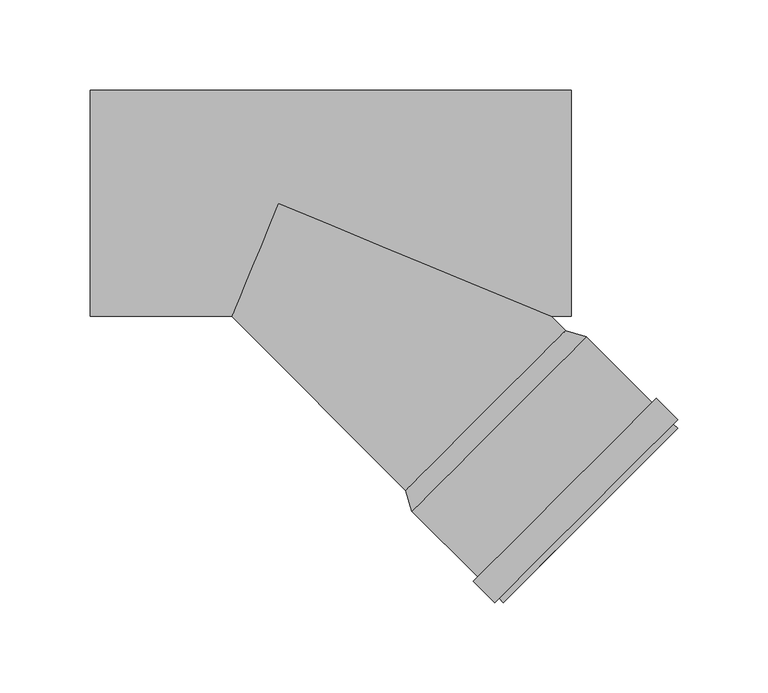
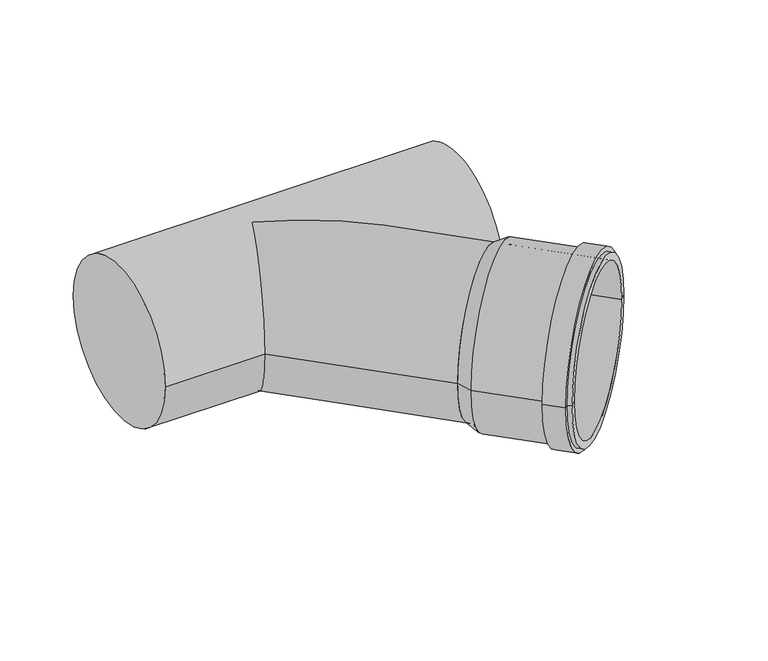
"""IFC4 building model written with IfcOpenShell, lengths in millimetres: pipe fitting geometry, pf_HTEA : pf_HTEA."""

from ifc_helpers import new_model, si_unit, frame, origin, place, context, project, spatial, polyline, circle_curve, ellipse_curve, source, transform, mapped, element, save
from ifc_brep_helpers import plane_surface, cylinder_surface, revolved_surface, advanced_brep


def pipe_fitting_72bf3672(model_context):
    return source(origin(), model_context, "Body", "AdvancedBrep", [
        advanced_brep(
        [(70.3571247, -158.7454724, 0.0), (158.7454724, -70.3571247, 0.0), (170.1298916, -73.821948, 0.0), (73.821948, -170.1298916, 0.0), (114.5512986, -114.5512986, 0.0), (124.3800828, -220.6880264, 0.0), (220.6880264, -124.3800828, 0.0), (216.7282284, -128.3398808, 0.0), (128.3398808, -216.7282284, 0.0), (121.9759198, -218.2838634, 0.0), (218.2838634, -121.9759198, 0.0), (119.5717567, -220.6880264, 0.0), (220.6880264, -119.5717567, 0.0), (107.8337841, -208.9500538, 0.0), (208.9500538, -107.8337841, 0.0), (110.2379472, -206.5458908, 0.0), (206.5458908, -110.2379472, 0.0), (77.7817459, -166.1700936, 0.0), (166.1700936, -77.7817459, 0.0), (121.9759198, -121.9759198, 0.0)],
        [
            (0, 1, circle_curve(frame((114.5512986, -114.5512986, 0.0), z_axis=(0.7071067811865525, -0.7071067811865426, 0.0), x_axis=(0.7071067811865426, 0.7071067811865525, 0.0)), 62.5)),
            (1, 2),
            (2, 3, circle_curve(frame((121.9759198, -121.9759198, 0.0), z_axis=(-0.7071067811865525, 0.7071067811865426, 0.0), x_axis=(0.7071067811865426, 0.7071067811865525, 0.0)), 68.1)),
            (3, 0),
            (1, 0, circle_curve(frame((114.5512986, -114.5512986, 0.0), z_axis=(0.7071067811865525, -0.7071067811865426, 0.0), x_axis=(0.7071067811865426, 0.7071067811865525, 0.0)), 62.5)),
            (3, 2, circle_curve(frame((121.9759198, -121.9759198, 0.0), z_axis=(-0.7071067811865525, 0.7071067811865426, 0.0), x_axis=(0.7071067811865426, 0.7071067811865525, 0.0)), 68.1)),
            (4, 1),
            (0, 4),
            (5, 6, circle_curve(frame((172.5340546, -172.5340546, 0.0), z_axis=(0.7071067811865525, -0.7071067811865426, 0.0), x_axis=(0.7071067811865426, 0.7071067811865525, 0.0)), 68.1)),
            (6, 7),
            (7, 8, circle_curve(frame((172.5340546, -172.5340546, 0.0), z_axis=(-0.7071067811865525, 0.7071067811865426, 0.0), x_axis=(0.7071067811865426, 0.7071067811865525, 0.0)), 62.5)),
            (8, 5),
            (6, 5, circle_curve(frame((172.5340546, -172.5340546, 0.0), z_axis=(0.7071067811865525, -0.7071067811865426, 0.0), x_axis=(0.7071067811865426, 0.7071067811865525, 0.0)), 68.1)),
            (8, 7, circle_curve(frame((172.5340546, -172.5340546, 0.0), z_axis=(-0.7071067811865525, 0.7071067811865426, 0.0), x_axis=(0.7071067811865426, 0.7071067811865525, 0.0)), 62.5)),
            (9, 10, circle_curve(frame((170.1298916, -170.1298916, 0.0), z_axis=(0.7071067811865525, -0.7071067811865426, 0.0), x_axis=(0.7071067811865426, 0.7071067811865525, 0.0)), 68.1)),
            (10, 6),
            (5, 9),
            (10, 9, circle_curve(frame((170.1298916, -170.1298916, 0.0), z_axis=(0.7071067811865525, -0.7071067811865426, 0.0), x_axis=(0.7071067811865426, 0.7071067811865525, 0.0)), 68.1)),
            (11, 12, circle_curve(frame((170.1298916, -170.1298916, 0.0), z_axis=(0.7071067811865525, -0.7071067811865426, 0.0), x_axis=(0.7071067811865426, 0.7071067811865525, 0.0)), 71.5)),
            (12, 10),
            (9, 11),
            (12, 11, circle_curve(frame((170.1298916, -170.1298916, 0.0), z_axis=(0.7071067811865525, -0.7071067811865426, 0.0), x_axis=(0.7071067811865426, 0.7071067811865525, 0.0)), 71.5)),
            (13, 14, circle_curve(frame((158.391919, -158.391919, 0.0), z_axis=(0.7071067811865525, -0.7071067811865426, 0.0), x_axis=(0.7071067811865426, 0.7071067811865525, 0.0)), 71.5)),
            (14, 12),
            (11, 13),
            (14, 13, circle_curve(frame((158.391919, -158.391919, 0.0), z_axis=(0.7071067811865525, -0.7071067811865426, 0.0), x_axis=(0.7071067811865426, 0.7071067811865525, 0.0)), 71.5)),
            (15, 16, circle_curve(frame((158.391919, -158.391919, 0.0), z_axis=(0.7071067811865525, -0.7071067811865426, 0.0), x_axis=(0.7071067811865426, 0.7071067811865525, 0.0)), 68.1)),
            (16, 14),
            (13, 15),
            (16, 15, circle_curve(frame((158.391919, -158.391919, 0.0), z_axis=(0.7071067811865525, -0.7071067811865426, 0.0), x_axis=(0.7071067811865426, 0.7071067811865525, 0.0)), 68.1)),
            (2, 16),
            (15, 3),
            (17, 18, circle_curve(frame((121.9759198, -121.9759198, 0.0), z_axis=(0.7071067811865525, -0.7071067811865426, 0.0), x_axis=(0.7071067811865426, 0.7071067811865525, 0.0)), 62.5)),
            (18, 19),
            (19, 17),
            (18, 17, circle_curve(frame((121.9759198, -121.9759198, 0.0), z_axis=(0.7071067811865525, -0.7071067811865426, 0.0), x_axis=(0.7071067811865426, 0.7071067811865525, 0.0)), 62.5)),
            (7, 18),
            (17, 8),
        ],
        [
            revolved_surface(polyline([(170.1298916, -73.821948, 0.0), (158.7454724, -70.3571247, 0.0)]), (114.5512986, -114.5512986, 0.0), (-0.7071067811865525, 0.7071067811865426, 0.0)),
            plane_surface(frame((114.5512986, -114.5512986, 0.0), z_axis=(-0.7071067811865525, 0.7071067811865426, 0.0), x_axis=(0.7071067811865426, 0.7071067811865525, 0.0))),
            plane_surface(frame((172.5340546, -172.5340546, 0.0), z_axis=(0.7071067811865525, -0.7071067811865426, 0.0), x_axis=(0.7071067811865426, 0.7071067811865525, 0.0))),
            cylinder_surface(frame((114.5512986, -114.5512986, 0.0), z_axis=(-0.7071067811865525, 0.7071067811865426, 0.0), x_axis=(0.7071067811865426, 0.7071067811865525, 0.0)), 68.1),
            plane_surface(frame((170.1298916, -170.1298916, 0.0), z_axis=(0.7071067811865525, -0.7071067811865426, 0.0), x_axis=(0.7071067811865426, 0.7071067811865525, 0.0))),
            cylinder_surface(frame((114.5512986, -114.5512986, 0.0), z_axis=(-0.7071067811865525, 0.7071067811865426, 0.0), x_axis=(0.7071067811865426, 0.7071067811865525, 0.0)), 71.5),
            plane_surface(frame((158.391919, -158.391919, 0.0), z_axis=(-0.7071067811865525, 0.7071067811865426, 0.0), x_axis=(0.7071067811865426, 0.7071067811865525, 0.0))),
            plane_surface(frame((121.9759198, -121.9759198, 0.0), z_axis=(0.7071067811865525, -0.7071067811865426, 0.0), x_axis=(0.7071067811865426, 0.7071067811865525, 0.0))),
            revolved_surface(polyline([(166.17009357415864, -77.78174592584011, 0.0), (216.72822842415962, -128.33988077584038, 0.0)]), (114.5512986, -114.5512986, 0.0), (-0.7071067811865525, 0.7071067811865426, 0.0)),
        ],
        [
            (0, [[1, 2, 3, 4]]),
            (0, [[5, -4, 6, -2]]),
            (1, [[7, -1, 8]]),
            (1, [[-8, -5, -7]]),
            (2, [[9, 10, 11, 12]]),
            (2, [[13, -12, 14, -10]]),
            (3, [[15, 16, -9, 17]]),
            (3, [[18, -17, -13, -16]]),
            (4, [[19, 20, -15, 21]]),
            (4, [[22, -21, -18, -20]]),
            (5, [[23, 24, -19, 25]]),
            (5, [[26, -25, -22, -24]]),
            (6, [[27, 28, -23, 29]]),
            (6, [[30, -29, -26, -28]]),
            (3, [[-3, 31, -27, 32]]),
            (3, [[-6, -32, -30, -31]]),
            (7, [[33, 34, 35]]),
            (7, [[36, -35, -34]]),
            (8, [[-11, 37, -33, 38]]),
            (8, [[-14, -38, -36, -37]]),
        ],
    ),
        advanced_brep(
        [(70.3571247, -158.7454724, 0.0), (158.7454724, -70.3571247, 0.0), (-104.0, -62.5, 0.0), (-104.0, 62.5, 0.0), (162.0, -62.5, 0.0), (162.0, 62.5, 0.0), (-25.8883476, -62.5, 0.0), (0.0, 0.0, 62.5), (150.8883476, -62.5, 0.0), (0.0, 0.0, -62.5)],
        [
            (0, 1, circle_curve(frame((114.5512986, -114.5512986, 0.0), z_axis=(0.7071067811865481, -0.7071067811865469, 0.0), x_axis=(0.7071067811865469, 0.7071067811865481, 0.0)), 62.5)),
            (1, 0, circle_curve(frame((114.5512986, -114.5512986, 0.0), z_axis=(0.7071067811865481, -0.7071067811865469, 0.0), x_axis=(0.7071067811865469, 0.7071067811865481, 0.0)), 62.5)),
            (2, 3, circle_curve(frame((-104.0, 0.0, 0.0), z_axis=(-1.0, 0.0, 0.0), x_axis=(0.0, 1.0, 0.0)), 62.5)),
            (3, 2, circle_curve(frame((-104.0, 0.0, 0.0), z_axis=(-1.0, 0.0, 0.0), x_axis=(0.0, 1.0, 0.0)), 62.5)),
            (4, 5, circle_curve(frame((162.0, 0.0, 0.0), z_axis=(1.0, 0.0, 0.0), x_axis=(0.0, 1.0, 0.0)), 62.5)),
            (5, 4, circle_curve(frame((162.0, 0.0, 0.0), z_axis=(1.0, 0.0, 0.0), x_axis=(0.0, 1.0, 0.0)), 62.5)),
            (2, 6),
            (6, 7, ellipse_curve(frame((0.0, 0.0, 0.0), z_axis=(-0.923879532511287, 0.3826834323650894, 0.0), x_axis=(-0.3826834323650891, -0.9238795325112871, 0.0)), 67.6495125, 62.5)),
            (7, 8, ellipse_curve(frame((0.0, 0.0, 0.0), z_axis=(0.3826834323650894, 0.923879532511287, 0.0), x_axis=(-0.923879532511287, 0.38268343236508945, 0.0)), 163.3203706, 62.5)),
            (8, 4),
            (5, 3),
            (8, 9, ellipse_curve(frame((0.0, 0.0, 0.0), z_axis=(0.3826834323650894, 0.923879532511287, 0.0), x_axis=(-0.923879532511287, 0.38268343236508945, 0.0)), 163.3203706, 62.5)),
            (9, 6, ellipse_curve(frame((0.0, 0.0, 0.0), z_axis=(-0.923879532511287, 0.3826834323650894, 0.0), x_axis=(-0.3826834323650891, -0.9238795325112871, 0.0)), 67.6495125, 62.5)),
            (1, 8),
            (6, 0),
        ],
        [
            plane_surface(frame((114.5512986, -114.5512986, 0.0), z_axis=(0.7071067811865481, -0.7071067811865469, 0.0), x_axis=(0.0, 0.0, 1.0))),
            plane_surface(frame((-104.0, 0.0, 0.0), z_axis=(-1.0, 0.0, 0.0), x_axis=(0.0, 0.0, 1.0))),
            plane_surface(frame((162.0, 0.0, 0.0), z_axis=(1.0, 0.0, 0.0), x_axis=(0.0, 0.0, 1.0))),
            cylinder_surface(frame((-104.0, 0.0, 0.0), z_axis=(-1.0, 0.0, 0.0), x_axis=(0.0, 1.0, 0.0)), 62.5),
            cylinder_surface(frame((0.0, 0.0, 0.0), z_axis=(-0.7071067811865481, 0.7071067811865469, 0.0), x_axis=(0.7071067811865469, 0.7071067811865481, 0.0)), 62.5),
        ],
        [
            (0, [[1, 2]]),
            (1, [[3, 4]]),
            (2, [[5, 6]]),
            (3, [[-3, 7, 8, 9, 10, -6, 11]]),
            (3, [[-4, -11, -5, -10, 12, 13, -7]]),
            (4, [[-2, 14, -9, -8, 15]]),
            (4, [[-1, -15, -13, -12, -14]]),
        ],
    ),
    ])


if __name__ == "__main__":
    model = new_model("IFC4")
    model_context = context("Model", 3, world=origin())
    ifc_project = project(units=[si_unit("LENGTHUNIT", "METRE", prefix="MILLI")], contexts=[model_context])
    site = spatial("IfcSite", under=ifc_project)
    building = spatial("IfcBuilding", under=site)
    placement = place(None, origin())
    pipe_fitting_shape = pipe_fitting_72bf3672(model_context)
    element("IfcPipeFitting", 1, ObjectType="pf_HTEA : pf_HTEA", at=placement, inside=building, context=model_context, shape_type="MappedRepresentation", body=[
        mapped(pipe_fitting_shape, transform((0.0, 0.0, 0.0), x_axis=(1.0, 0.0, 0.0), y_axis=(0.0, 1.0, 0.0), z_axis=(0.0, 0.0, 1.0))),
    ])
    save(model, "model.ifc")
